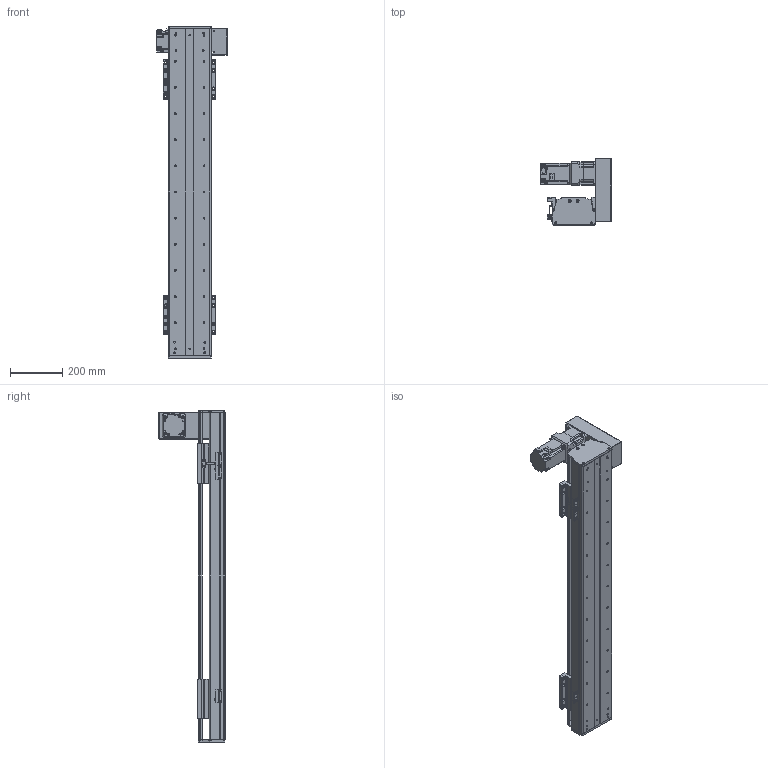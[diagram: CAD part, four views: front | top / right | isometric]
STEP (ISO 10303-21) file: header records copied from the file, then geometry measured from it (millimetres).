
FILE_DESCRIPTION(/* description */ (''),/* implementation_level */ '2;1');
FILE_NAME(/* name */ 'C:\Users\PC\Desktop\3D도면\STEP\새 폴더\DSB165-UR7G-W0900-L.stp',/* time_stamp */ '2018-06-25T15:16:41+09:00',/* author */ ('PC'),/* organization */ (''),/* preprocessor_version */ 'ST-DEVELOPER v16.5',/* originating_system */ 'Autodesk Inventor 2017',/* authorisation */ '');
FILE_SCHEMA (('AUTOMOTIVE_DESIGN { 1 0 10303 214 3 1 1 }'));
Length unit declared in the file: millimetre
Products named in the file (12): DSB165-UL7G-W0900-R_MIR; DSB165-BASE-L_MIR; hg-kr73__MIR; ab0901-p0401300102_MIR; 11-DSB165 BELT COVER_MIR; 12-DSB165-REAR COVER_MIR; 14-DSB165-FRONT COVER_MIR; DSB165-UP COVER_MIR; DSR165-SENSOR DOG_MIR; pm-y65_step_MIR; SENSOR BRACKET(EE-SX674A)_MIR; DSB165-TABLE(MSB20S)_MIR
Assembly tree (16 placements, depth 2):
  DSB165-UL7G-W0900-R_MIR
    DSB165-BASE-L_MIR
    hg-kr73__MIR
    ab0901-p0401300102_MIR
    11-DSB165 BELT COVER_MIR
    12-DSB165-REAR COVER_MIR
    14-DSB165-FRONT COVER_MIR
    DSB165-UP COVER_MIR
    DSR165-SENSOR DOG_MIR
    pm-y65_step_MIR  x3
    SENSOR BRACKET(EE-SX674A)_MIR  x3
    DSB165-TABLE(MSB20S)_MIR  x2
Bounding box: 270 x 254 x 1270 mm (x, y, z)
Volume: 8409918.7 mm3; surface area: 1944561.5 mm2
Topology: 17 solids, 17 shells, 1665 faces, 4474 edges, 2948 vertices
Faces by surface type: plane 921, cylinder 618, cone 114, sphere 8, torus 4
Full cylindrical faces by diameter (mm): 2.459 x20, 3.5 x6, 4.134 x42, 4.5 x18, 5 x27, 5.5 x36, 5.9 x4, 6 x4, 6.6 x14, 6.647 x42, 6.8 x1, 7 x4, 7.6 x4, 8.4 x1, 8.5 x24, 8.7 x1, 9.5 x32, 11 x6, 14 x16, 19 x1, 22 x1, 24 x1, 25 x1, 28 x1, 67 x1, 70 x2, 80 x1
Entity records: 36088 total; most frequent: DIRECTION 6250, CARTESIAN_POINT 6063, ORIENTED_EDGE 5530, EDGE_CURVE 2765, AXIS2_PLACEMENT_3D 2295, VERTEX_POINT 1970, EDGE_LOOP 1727, LINE 1660
